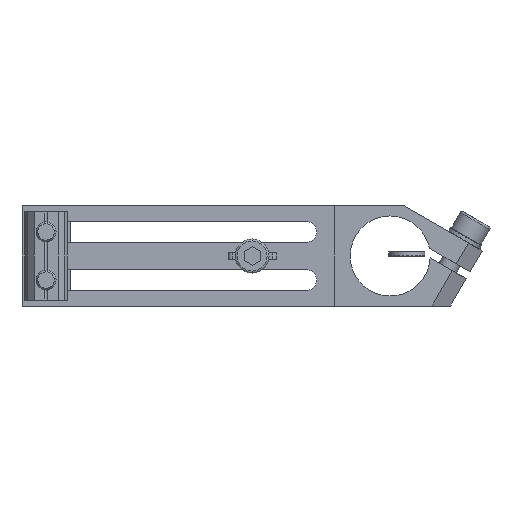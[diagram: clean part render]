
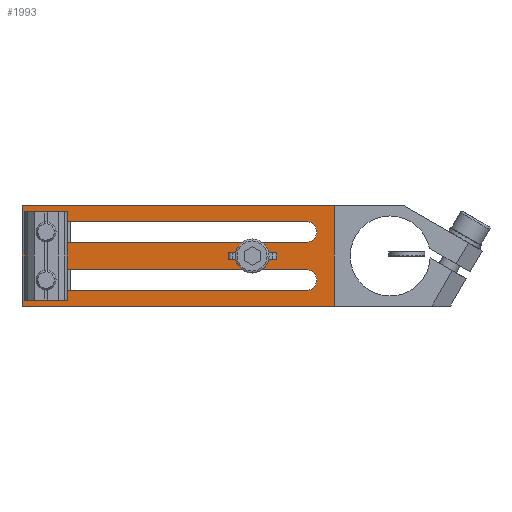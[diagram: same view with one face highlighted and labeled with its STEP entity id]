
A CAD part, left-side view. The second image highlights one B-rep face of the part: STEP entity #1993.
In plain terms, the highlighted planar face has unit normal (-1, 0, 0).
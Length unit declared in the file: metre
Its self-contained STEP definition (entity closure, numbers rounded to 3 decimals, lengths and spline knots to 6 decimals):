
#1993 = ADVANCED_FACE( '', ( #4062, #4063, #4064 ), #4065, .T. );
#4062 = FACE_BOUND( '', #5093, .T. );
#4063 = FACE_BOUND( '', #5094, .T. );
#4064 = FACE_OUTER_BOUND( '', #5095, .T. );
#4065 = PLANE( '', #5096 );
#5093 = EDGE_LOOP( '', ( #6602, #6603, #6604, #6605 ) );
#5094 = EDGE_LOOP( '', ( #6606, #6607, #6608, #6609 ) );
#5095 = EDGE_LOOP( '', ( #6610, #6611, #6612, #6613 ) );
#5096 = AXIS2_PLACEMENT_3D( '', #6614, #6615, #6616 );
#6602 = ORIENTED_EDGE( '', *, *, #8891, .F. );
#6603 = ORIENTED_EDGE( '', *, *, #8893, .T. );
#6604 = ORIENTED_EDGE( '', *, *, #8897, .F. );
#6605 = ORIENTED_EDGE( '', *, *, #8898, .T. );
#6606 = ORIENTED_EDGE( '', *, *, #8899, .F. );
#6607 = ORIENTED_EDGE( '', *, *, #8900, .F. );
#6608 = ORIENTED_EDGE( '', *, *, #8901, .F. );
#6609 = ORIENTED_EDGE( '', *, *, #8894, .F. );
#6610 = ORIENTED_EDGE( '', *, *, #8902, .F. );
#6611 = ORIENTED_EDGE( '', *, *, #8903, .F. );
#6612 = ORIENTED_EDGE( '', *, *, #8904, .F. );
#6613 = ORIENTED_EDGE( '', *, *, #8905, .F. );
#6614 = CARTESIAN_POINT( '', ( -0.006, -0.0205, 0.0355 ) );
#6615 = DIRECTION( '', ( -1., 0., 0. ) );
#6616 = DIRECTION( '', ( 0., -1., 0. ) );
#8891 = EDGE_CURVE( '', #10146, #10144, #10148, .T. );
#8893 = EDGE_CURVE( '', #10146, #10149, #10151, .T. );
#8894 = EDGE_CURVE( '', #10152, #10153, #10154, .T. );
#8897 = EDGE_CURVE( '', #10157, #10149, #10158, .T. );
#8898 = EDGE_CURVE( '', #10157, #10144, #10159, .T. );
#8899 = EDGE_CURVE( '', #10160, #10152, #10161, .T. );
#8900 = EDGE_CURVE( '', #10162, #10160, #10163, .T. );
#8901 = EDGE_CURVE( '', #10153, #10162, #10164, .T. );
#8902 = EDGE_CURVE( '', #10165, #10166, #10167, .T. );
#8903 = EDGE_CURVE( '', #10168, #10165, #10169, .T. );
#8904 = EDGE_CURVE( '', #10170, #10168, #10171, .T. );
#8905 = EDGE_CURVE( '', #10166, #10170, #10172, .T. );
#10144 = VERTEX_POINT( '', #10615 );
#10146 = VERTEX_POINT( '', #10618 );
#10148 = CIRCLE( '', #10621, 0.002625 );
#10149 = VERTEX_POINT( '', #10622 );
#10151 = LINE( '', #10625, #10626 );
#10152 = VERTEX_POINT( '', #10627 );
#10153 = VERTEX_POINT( '', #10628 );
#10154 = LINE( '', #10629, #10630 );
#10157 = VERTEX_POINT( '', #10635 );
#10158 = CIRCLE( '', #10636, 0.002625 );
#10159 = LINE( '', #10637, #10638 );
#10160 = VERTEX_POINT( '', #10639 );
#10161 = CIRCLE( '', #10640, 0.002625 );
#10162 = VERTEX_POINT( '', #10641 );
#10163 = LINE( '', #10642, #10643 );
#10164 = CIRCLE( '', #10644, 0.002625 );
#10165 = VERTEX_POINT( '', #10645 );
#10166 = VERTEX_POINT( '', #10646 );
#10167 = LINE( '', #10647, #10648 );
#10168 = VERTEX_POINT( '', #10649 );
#10169 = LINE( '', #10650, #10651 );
#10170 = VERTEX_POINT( '', #10652 );
#10171 = LINE( '', #10653, #10654 );
#10172 = LINE( '', #10655, #10656 );
#10615 = CARTESIAN_POINT( '', ( -0.006, -0.0135, -0.003375 ) );
#10618 = CARTESIAN_POINT( '', ( -0.006, -0.0135, -0.008625 ) );
#10621 = AXIS2_PLACEMENT_3D( '', #11258, #11259, #11260 );
#10622 = CARTESIAN_POINT( '', ( -0.006, 0.0515, -0.008625 ) );
#10625 = CARTESIAN_POINT( '', ( -0.006, -0.0205, -0.008625 ) );
#10626 = VECTOR( '', #11262, 1. );
#10627 = CARTESIAN_POINT( '', ( -0.006, 0.0515, 0.003375 ) );
#10628 = CARTESIAN_POINT( '', ( -0.006, -0.0135, 0.003375 ) );
#10629 = CARTESIAN_POINT( '', ( -0.006, -0.0205, 0.003375 ) );
#10630 = VECTOR( '', #11263, 1. );
#10635 = CARTESIAN_POINT( '', ( -0.006, 0.0515, -0.003375 ) );
#10636 = AXIS2_PLACEMENT_3D( '', #11266, #11267, #11268 );
#10637 = CARTESIAN_POINT( '', ( -0.006, -0.0205, -0.003375 ) );
#10638 = VECTOR( '', #11269, 1. );
#10639 = CARTESIAN_POINT( '', ( -0.006, 0.0515, 0.008625 ) );
#10640 = AXIS2_PLACEMENT_3D( '', #11270, #11271, #11272 );
#10641 = CARTESIAN_POINT( '', ( -0.006, -0.0135, 0.008625 ) );
#10642 = CARTESIAN_POINT( '', ( -0.006, -0.0205, 0.008625 ) );
#10643 = VECTOR( '', #11273, 1. );
#10644 = AXIS2_PLACEMENT_3D( '', #11274, #11275, #11276 );
#10645 = CARTESIAN_POINT( '', ( -0.006, 0.0575, -0.0125 ) );
#10646 = CARTESIAN_POINT( '', ( -0.006, 0.0575, 0.0125 ) );
#10647 = CARTESIAN_POINT( '', ( -0.006, 0.0575, -0.0125 ) );
#10648 = VECTOR( '', #11277, 1. );
#10649 = CARTESIAN_POINT( '', ( -0.006, -0.0205, -0.0125 ) );
#10650 = CARTESIAN_POINT( '', ( -0.006, -0.0205, -0.0125 ) );
#10651 = VECTOR( '', #11278, 1. );
#10652 = CARTESIAN_POINT( '', ( -0.006, -0.0205, 0.0125 ) );
#10653 = CARTESIAN_POINT( '', ( -0.006, -0.0205, 0.0355 ) );
#10654 = VECTOR( '', #11279, 1. );
#10655 = CARTESIAN_POINT( '', ( -0.006, 0.0575, 0.0125 ) );
#10656 = VECTOR( '', #11280, 1. );
#11258 = CARTESIAN_POINT( '', ( -0.006, -0.0135, -0.006 ) );
#11259 = DIRECTION( '', ( -1., 0., 0. ) );
#11260 = DIRECTION( '', ( 0., -1., 0. ) );
#11262 = DIRECTION( '', ( 0., 1., 0. ) );
#11263 = DIRECTION( '', ( 0., -1., 0. ) );
#11266 = CARTESIAN_POINT( '', ( -0.006, 0.0515, -0.006 ) );
#11267 = DIRECTION( '', ( -1., 0., 0. ) );
#11268 = DIRECTION( '', ( 0., -1., 0. ) );
#11269 = DIRECTION( '', ( 0., -1., 0. ) );
#11270 = CARTESIAN_POINT( '', ( -0.006, 0.0515, 0.006 ) );
#11271 = DIRECTION( '', ( -1., 0., 0. ) );
#11272 = DIRECTION( '', ( 0., -1., 0. ) );
#11273 = DIRECTION( '', ( 0., 1., 0. ) );
#11274 = CARTESIAN_POINT( '', ( -0.006, -0.0135, 0.006 ) );
#11275 = DIRECTION( '', ( -1., 0., 0. ) );
#11276 = DIRECTION( '', ( 0., -1., 0. ) );
#11277 = DIRECTION( '', ( 0., 0., 1. ) );
#11278 = DIRECTION( '', ( 0., 1., 0. ) );
#11279 = DIRECTION( '', ( 0., 0., -1. ) );
#11280 = DIRECTION( '', ( 0., -1., 0. ) );
